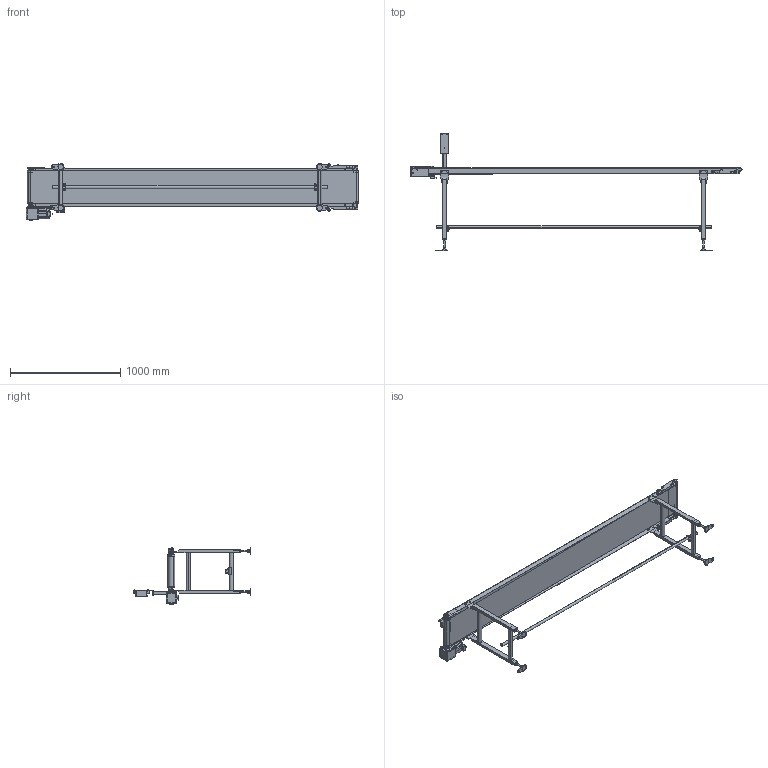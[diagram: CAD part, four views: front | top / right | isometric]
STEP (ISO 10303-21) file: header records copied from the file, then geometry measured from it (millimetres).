
FILE_DESCRIPTION( (''), '2;1');
FILE_NAME ('FB21-HS-306-300-300-R-K-100.stp','2025-02-17T09:33:24',(''),(''),'spGate 20.6.2 (****-****-****-****)','','');
FILE_SCHEMA (('AUTOMOTIVE_DESIGN'));
Length unit declared in the file: millimetre
Products named in the file (48): NewModel; TEMP_X_T-prt0; TEMP_X_T-prt1; TEMP_X_T-prt2; TEMP_X_T-prt3; TEMP_X_T-prt4; TEMP_X_T-prt5; TEMP_X_T-prt6; TEMP_X_T-prt7; TEMP_X_T-prt8; TEMP_X_T-prt9; TEMP_X_T-prt10; TEMP_X_T-prt11; TEMP_X_T-prt12; TEMP_X_T-prt13; TEMP_X_T-prt14; TEMP_X_T-prt15; TEMP_X_T-prt16; TEMP_X_T-prt17; TEMP_X_T-prt18; TEMP_X_T-prt19; TEMP_X_T-prt20; TEMP_X_T-prt21; TEMP_X_T-prt22; TEMP_X_T-prt23; TEMP_X_T-prt24; TEMP_X_T-prt25; TEMP_X_T-prt26; TEMP_X_T-prt27; TEMP_X_T-prt28; TEMP_X_T-prt29; TEMP_X_T-prt30; TEMP_X_T-prt31; TEMP_X_T-prt32; TEMP_X_T-prt33; TEMP_X_T-prt34; TEMP_X_T-prt35; TEMP_X_T-prt36; TEMP_X_T-prt37; TEMP_X_T-prt38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
Assembly tree (47 placements, depth 2):
  NewModel
    TEMP_X_T-prt0
    TEMP_X_T-prt1
    TEMP_X_T-prt2
    TEMP_X_T-prt3
    TEMP_X_T-prt4
    TEMP_X_T-prt5
    TEMP_X_T-prt6
    TEMP_X_T-prt7
    TEMP_X_T-prt8
    TEMP_X_T-prt9
    TEMP_X_T-prt10
    TEMP_X_T-prt11
    TEMP_X_T-prt12
    TEMP_X_T-prt13
    TEMP_X_T-prt14
    TEMP_X_T-prt15
    TEMP_X_T-prt16
    TEMP_X_T-prt17
    TEMP_X_T-prt18
    TEMP_X_T-prt19
    TEMP_X_T-prt20
    TEMP_X_T-prt21
    TEMP_X_T-prt22
    TEMP_X_T-prt23
    TEMP_X_T-prt24
    TEMP_X_T-prt25
    TEMP_X_T-prt26
    TEMP_X_T-prt27
    TEMP_X_T-prt28
    TEMP_X_T-prt29
    TEMP_X_T-prt30
    TEMP_X_T-prt31
    TEMP_X_T-prt32
    TEMP_X_T-prt33
    TEMP_X_T-prt34
    TEMP_X_T-prt35
    TEMP_X_T-prt36
    TEMP_X_T-prt37
    TEMP_X_T-prt38
    TEMP_X_T-prt39
    TEMP_X_T-prt40
    TEMP_X_T-prt41
    TEMP_X_T-prt42
    TEMP_X_T-prt43
    TEMP_X_T-prt44
    TEMP_X_T-prt45
    TEMP_X_T-prt46
Bounding box: 3012.87 x 1069.5 x 518.5 mm (x, y, z)
Volume: 14339343.7 mm3; surface area: 7637583.8 mm2
Topology: 47 solids, 47 shells, 1805 faces, 4422 edges, 2875 vertices
Faces by surface type: plane 1059, cylinder 612, bspline 132, sphere 2
Entity records: 92825 total; most frequent: CARTESIAN_POINT 13103, ORIENTED_EDGE 8836, DIRECTION 8810, COLOUR_RGB 6270, PRESENTATION_STYLE_ASSIGNMENT 6270, STYLED_ITEM 6270, EDGE_CURVE 4418, DRAUGHTING_PRE_DEFINED_CURVE_FONT 4418
